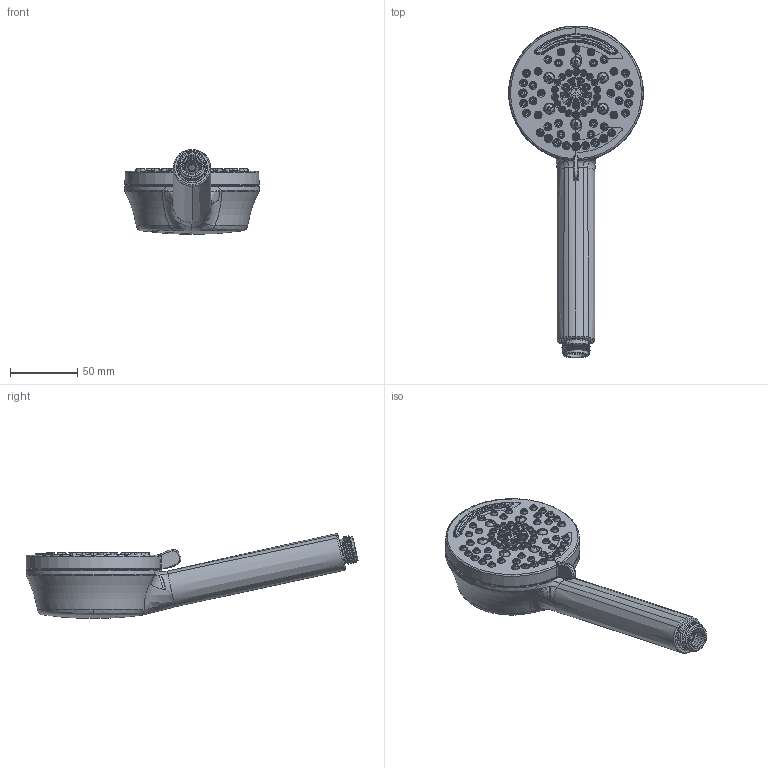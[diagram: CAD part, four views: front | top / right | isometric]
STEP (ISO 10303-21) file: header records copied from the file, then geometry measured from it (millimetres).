
FILE_DESCRIPTION (( 'STEP AP214' ), '1' );
FILE_NAME ('592W7.STEP', '2025-01-07T09:04:28', ( '' ), ( '' ), 'SwSTEP 2.0', 'SolidWorks 2023', '' );
FILE_SCHEMA (( 'AUTOMOTIVE_DESIGN' ));
Length unit declared in the file: inch
Products named in the file (1): 592W7
Bounding box: 100 x 247.08 x 63.19 mm (x, y, z)
Surface area: 54336.1 mm2 (no closed solid volume)
Topology: 0 solids, 95 shells, 1088 faces, 3686 edges, 2662 vertices
Faces by surface type: bspline 533, cone 371, plane 101, torus 35, cylinder 27, sphere 21
Entity records: 170847 total; most frequent: CARTESIAN_POINT 145071, ORIENTED_EDGE 5709, EDGE_CURVE 3686, DIRECTION 3472, VERTEX_POINT 2662, B_SPLINE_CURVE_WITH_KNOTS 2122, AXIS2_PLACEMENT_3D 1381, EDGE_LOOP 1320
